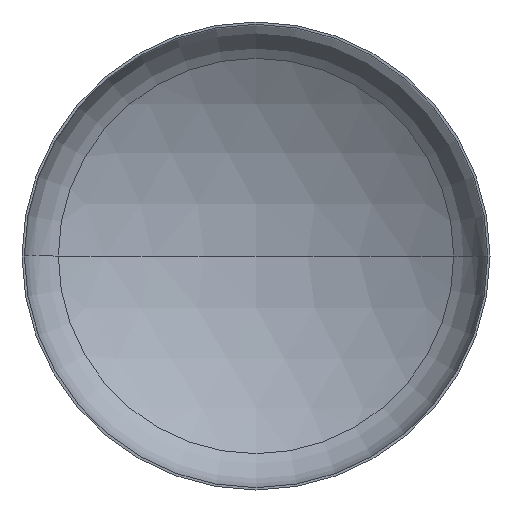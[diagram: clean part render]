
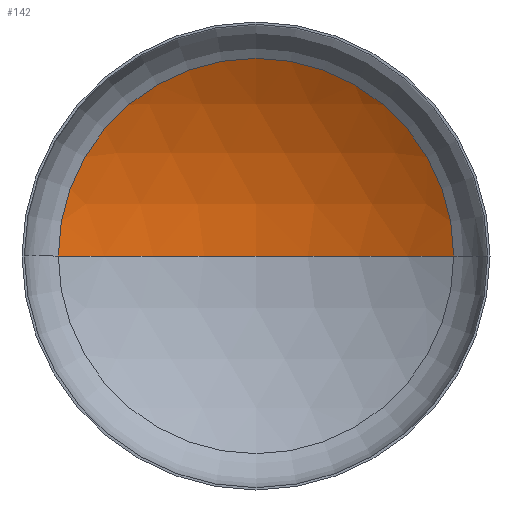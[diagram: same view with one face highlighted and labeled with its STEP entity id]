
A CAD part, front view. The second image highlights one B-rep face of the part: STEP entity #142.
In plain terms, the highlighted spherical face has radius 4400 mm.
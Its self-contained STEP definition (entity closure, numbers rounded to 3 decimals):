
#8 = DIRECTION ( 'NONE',  ( 0., 0., -1. ) ) ;
#12 = ORIENTED_EDGE ( 'NONE', *, *, #98, .T. ) ;
#18 = DIRECTION ( 'NONE',  ( 0., -1., 0. ) ) ;
#24 = CIRCLE ( 'NONE', #387, 4400. ) ;
#33 = ORIENTED_EDGE ( 'NONE', *, *, #70, .F. ) ;
#58 = VERTEX_POINT ( 'NONE', #318 ) ;
#70 = EDGE_CURVE ( 'NONE', #150, #191, #362, .T. ) ;
#91 = DIRECTION ( 'NONE',  ( 0., 0., 1. ) ) ;
#94 = DIRECTION ( 'NONE',  ( -1., 0., 0. ) ) ;
#98 = EDGE_CURVE ( 'NONE', #150, #58, #24, .T. ) ;
#111 = AXIS2_PLACEMENT_3D ( 'NONE', #242, #386, #94 ) ;
#117 = EDGE_LOOP ( 'NONE', ( #33, #12, #203 ) ) ;
#137 = CARTESIAN_POINT ( 'NONE',  ( -2323.15, 802.617, 0. ) ) ;
#138 = DIRECTION ( 'NONE',  ( 1., 0., 0. ) ) ;
#142 = ADVANCED_FACE ( 'NONE', ( #350 ), #409, .F. ) ;
#150 = VERTEX_POINT ( 'NONE', #175 ) ;
#163 = AXIS2_PLACEMENT_3D ( 'NONE', #245, #18, #276 ) ;
#175 = CARTESIAN_POINT ( 'NONE',  ( 0., 1465.911, 0. ) ) ;
#177 = EDGE_CURVE ( 'NONE', #58, #191, #201, .T. ) ;
#191 = VERTEX_POINT ( 'NONE', #137 ) ;
#201 = CIRCLE ( 'NONE', #163, 2323.15 ) ;
#203 = ORIENTED_EDGE ( 'NONE', *, *, #177, .T. ) ;
#240 = CARTESIAN_POINT ( 'NONE',  ( 0., -2934.089, 0. ) ) ;
#242 = CARTESIAN_POINT ( 'NONE',  ( 0., -2934.089, 0. ) ) ;
#245 = CARTESIAN_POINT ( 'NONE',  ( 0., 802.617, 0. ) ) ;
#269 = DIRECTION ( 'NONE',  ( -1., 0., 0. ) ) ;
#276 = DIRECTION ( 'NONE',  ( 1., 0., 0. ) ) ;
#318 = CARTESIAN_POINT ( 'NONE',  ( 2323.15, 802.617, 0. ) ) ;
#331 = AXIS2_PLACEMENT_3D ( 'NONE', #360, #91, #138 ) ;
#350 = FACE_OUTER_BOUND ( 'NONE', #117, .T. ) ;
#360 = CARTESIAN_POINT ( 'NONE',  ( 0., -2934.089, 0. ) ) ;
#362 = CIRCLE ( 'NONE', #331, 4400. ) ;
#386 = DIRECTION ( 'NONE',  ( 0., 0., -1. ) ) ;
#387 = AXIS2_PLACEMENT_3D ( 'NONE', #240, #8, #269 ) ;
#409 = SPHERICAL_SURFACE ( 'NONE', #111, 4400. ) ;
